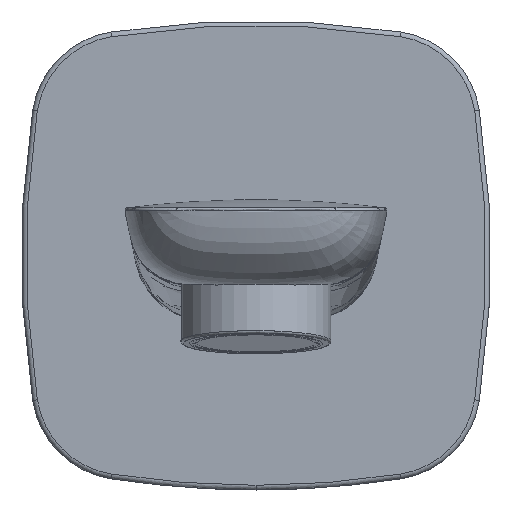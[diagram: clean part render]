
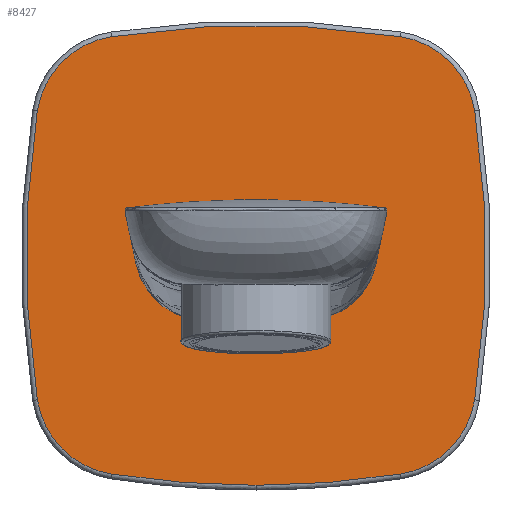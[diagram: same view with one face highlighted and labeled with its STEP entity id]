
A CAD part, top view. The second image highlights one B-rep face of the part: STEP entity #8427.
In plain terms, the highlighted planar face has unit normal (0, 0, 1).
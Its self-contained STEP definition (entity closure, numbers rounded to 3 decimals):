
#1407=PLANE('',#8977);
#1460=FACE_OUTER_BOUND('',#1961,.T.);
#1961=EDGE_LOOP('',(#5686,#5687,#5688,#5689,#5690,#5691,#5692,#5693,#5694));
#2466=CIRCLE('',#8959,190.);
#2469=CIRCLE('',#8965,190.);
#2473=CIRCLE('',#8971,190.);
#2476=CIRCLE('',#8976,190.);
#2680=B_SPLINE_CURVE_WITH_KNOTS('',3,(#10494,#10495,#10496,#10497,#10498,
#10499,#10500),.UNSPECIFIED.,.F.,.F.,(4,3,4),(0.,0.199,
0.311),.UNSPECIFIED.);
#2683=B_SPLINE_CURVE_WITH_KNOTS('',3,(#10524,#10525,#10526,#10527),
 .UNSPECIFIED.,.F.,.F.,(4,4),(0.,0.155),
 .UNSPECIFIED.);
#2684=B_SPLINE_CURVE_WITH_KNOTS('',3,(#10532,#10533,#10534,#10535),
 .UNSPECIFIED.,.F.,.F.,(4,4),(0.,0.155),
 .UNSPECIFIED.);
#2687=B_SPLINE_CURVE_WITH_KNOTS('',3,(#10557,#10558,#10559,#10560,#10561,
#10562,#10563),.UNSPECIFIED.,.F.,.F.,(4,3,4),(0.,0.199,
0.311),.UNSPECIFIED.);
#2691=B_SPLINE_CURVE_WITH_KNOTS('',3,(#10596,#10597,#10598,#10599,#10600,
#10601,#10602),.UNSPECIFIED.,.F.,.F.,(4,3,4),(0.,0.199,
0.311),.UNSPECIFIED.);
#3377=VERTEX_POINT('',#10476);
#3379=VERTEX_POINT('',#10486);
#3381=VERTEX_POINT('',#10503);
#3383=VERTEX_POINT('',#10515);
#3385=VERTEX_POINT('',#10531);
#3386=VERTEX_POINT('',#10544);
#3388=VERTEX_POINT('',#10556);
#3391=VERTEX_POINT('',#10575);
#3393=VERTEX_POINT('',#10587);
#4281=EDGE_CURVE('',#3379,#3377,#2680,.T.);
#4284=EDGE_CURVE('',#3377,#3381,#2466,.T.);
#4287=EDGE_CURVE('',#3381,#3383,#2683,.T.);
#4289=EDGE_CURVE('',#3383,#3385,#2684,.T.);
#4291=EDGE_CURVE('',#3385,#3386,#2469,.T.);
#4294=EDGE_CURVE('',#3386,#3388,#2687,.T.);
#4299=EDGE_CURVE('',#3388,#3391,#2473,.T.);
#4302=EDGE_CURVE('',#3391,#3393,#2691,.T.);
#4304=EDGE_CURVE('',#3393,#3379,#2476,.T.);
#5686=ORIENTED_EDGE('',*,*,#4281,.F.);
#5687=ORIENTED_EDGE('',*,*,#4304,.F.);
#5688=ORIENTED_EDGE('',*,*,#4302,.F.);
#5689=ORIENTED_EDGE('',*,*,#4299,.F.);
#5690=ORIENTED_EDGE('',*,*,#4294,.F.);
#5691=ORIENTED_EDGE('',*,*,#4291,.F.);
#5692=ORIENTED_EDGE('',*,*,#4289,.F.);
#5693=ORIENTED_EDGE('',*,*,#4287,.F.);
#5694=ORIENTED_EDGE('',*,*,#4284,.F.);
#8427=ADVANCED_FACE('',(#1460),#1407,.F.);
#8959=AXIS2_PLACEMENT_3D('',#10512,#9321,#9322);
#8965=AXIS2_PLACEMENT_3D('',#10545,#9333,#9334);
#8971=AXIS2_PLACEMENT_3D('',#10584,#9345,#9346);
#8976=AXIS2_PLACEMENT_3D('',#10605,#9355,#9356);
#8977=AXIS2_PLACEMENT_3D('',#10606,#9357,#9358);
#9321=DIRECTION('center_axis',(0.,0.,
-1.));
#9322=DIRECTION('ref_axis',(0.988,-0.155,0.));
#9333=DIRECTION('center_axis',(0.,0.,
-1.));
#9334=DIRECTION('ref_axis',(-0.155,-0.988,0.));
#9345=DIRECTION('center_axis',(0.,0.,
-1.));
#9346=DIRECTION('ref_axis',(-0.988,0.155,0.));
#9355=DIRECTION('center_axis',(0.,0.,
-1.));
#9356=DIRECTION('ref_axis',(0.155,0.988,0.));
#9357=DIRECTION('center_axis',(0.,0.,
-1.));
#9358=DIRECTION('ref_axis',(-1.,0.,0.));
#10476=CARTESIAN_POINT('',(466.063,-307.729,0.01));
#10486=CARTESIAN_POINT('',(466.063,307.729,0.01));
#10494=CARTESIAN_POINT('Ctrl Pts',(466.063,307.729,0.01));
#10495=CARTESIAN_POINT('Ctrl Pts',(486.499,177.163,0.01));
#10496=CARTESIAN_POINT('Ctrl Pts',(493.886,44.558,0.01));
#10497=CARTESIAN_POINT('Ctrl Pts',(488.077,-87.47,0.01));
#10498=CARTESIAN_POINT('Ctrl Pts',(484.832,-161.223,0.01));
#10499=CARTESIAN_POINT('Ctrl Pts',(477.479,-234.794,0.01));
#10500=CARTESIAN_POINT('Ctrl Pts',(466.063,-307.729,0.01));
#10503=CARTESIAN_POINT('',(307.729,-466.063,0.01));
#10512=CARTESIAN_POINT('Origin',(278.348,-278.348,0.01));
#10515=CARTESIAN_POINT('',(0.,-490.,0.01));
#10524=CARTESIAN_POINT('Ctrl Pts',(307.729,-466.063,0.01));
#10525=CARTESIAN_POINT('Ctrl Pts',(205.978,-481.989,0.01));
#10526=CARTESIAN_POINT('Ctrl Pts',(102.99,-490.,0.01));
#10527=CARTESIAN_POINT('Ctrl Pts',(0.,-490.,
0.01));
#10531=CARTESIAN_POINT('',(-307.729,-466.063,0.01));
#10532=CARTESIAN_POINT('Ctrl Pts',(0.,-490.,
0.01));
#10533=CARTESIAN_POINT('Ctrl Pts',(-102.99,-490.,0.01));
#10534=CARTESIAN_POINT('Ctrl Pts',(-205.978,-481.989,
0.01));
#10535=CARTESIAN_POINT('Ctrl Pts',(-307.729,-466.063,
0.01));
#10544=CARTESIAN_POINT('',(-466.063,-307.729,0.01));
#10545=CARTESIAN_POINT('Origin',(-278.348,-278.348,0.01));
#10556=CARTESIAN_POINT('',(-466.063,307.729,0.01));
#10557=CARTESIAN_POINT('Ctrl Pts',(-466.063,-307.729,
0.01));
#10558=CARTESIAN_POINT('Ctrl Pts',(-486.499,-177.163,
0.01));
#10559=CARTESIAN_POINT('Ctrl Pts',(-493.886,-44.558,
0.01));
#10560=CARTESIAN_POINT('Ctrl Pts',(-488.077,87.47,0.01));
#10561=CARTESIAN_POINT('Ctrl Pts',(-484.832,161.223,0.01));
#10562=CARTESIAN_POINT('Ctrl Pts',(-477.479,234.794,0.01));
#10563=CARTESIAN_POINT('Ctrl Pts',(-466.063,307.729,0.01));
#10575=CARTESIAN_POINT('',(-307.729,466.063,0.01));
#10584=CARTESIAN_POINT('Origin',(-278.348,278.348,0.01));
#10587=CARTESIAN_POINT('',(307.729,466.063,0.01));
#10596=CARTESIAN_POINT('Ctrl Pts',(-307.729,466.063,0.01));
#10597=CARTESIAN_POINT('Ctrl Pts',(-177.163,486.499,0.01));
#10598=CARTESIAN_POINT('Ctrl Pts',(-44.558,493.886,0.01));
#10599=CARTESIAN_POINT('Ctrl Pts',(87.47,488.077,0.01));
#10600=CARTESIAN_POINT('Ctrl Pts',(161.223,484.832,0.01));
#10601=CARTESIAN_POINT('Ctrl Pts',(234.794,477.479,0.01));
#10602=CARTESIAN_POINT('Ctrl Pts',(307.729,466.063,0.01));
#10605=CARTESIAN_POINT('Origin',(278.348,278.348,0.01));
#10606=CARTESIAN_POINT('Origin',(0.,-0.216,
0.01));
